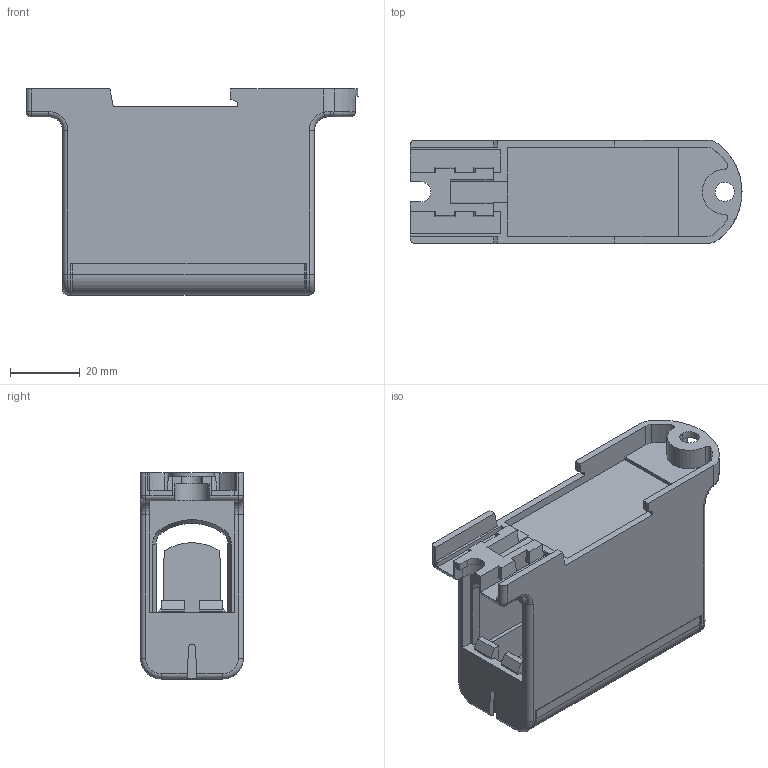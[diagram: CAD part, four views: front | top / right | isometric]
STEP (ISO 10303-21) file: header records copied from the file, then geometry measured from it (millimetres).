
FILE_DESCRIPTION((''),'2;1');
FILE_NAME('ASM000-63_ASM','2016-05-18T',('Administrator'),(''),'PRO/ENGINEER BY PARAMETRIC TECHNOLOGY CORPORATION, 2009360','PRO/ENGINEER BY PARAMETRIC TECHNOLOGY CORPORATION, 2009360','');
FILE_SCHEMA(('CONFIG_CONTROL_DESIGN'));
Length unit declared in the file: millimetre
Products named in the file (3): KE63-ZUO; KE63-GAI; ASM000-63_ASM
Assembly tree (2 placements, depth 2):
  ASM000-63_ASM
    KE63-ZUO
    KE63-GAI
Bounding box: 95 x 29.5 x 59 mm (x, y, z)
Volume: 29804.5 mm3; surface area: 34667.4 mm2
Topology: 2 solids, 2 shells, 311 faces, 869 edges, 558 vertices
Faces by surface type: plane 198, cylinder 75, torus 24, cone 10, bspline 2, sphere 2
Entity records: 10111 total; most frequent: CARTESIAN_POINT 1973, ORIENTED_EDGE 1738, DIRECTION 1631, EDGE_CURVE 869, VECTOR 647, LINE 647, VERTEX_POINT 558, AXIS2_PLACEMENT_3D 492
